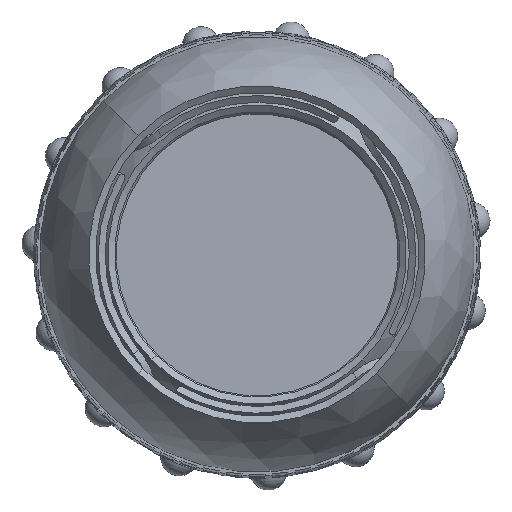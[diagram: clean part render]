
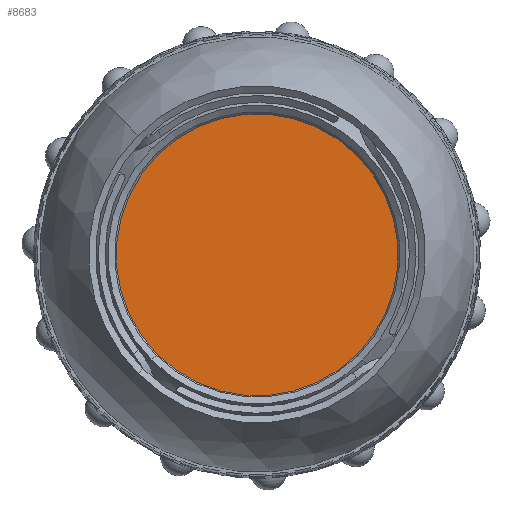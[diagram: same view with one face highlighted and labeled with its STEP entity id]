
A CAD part, top view. The second image highlights one B-rep face of the part: STEP entity #8683.
In plain terms, the highlighted planar face has unit normal (0, 0, 1).
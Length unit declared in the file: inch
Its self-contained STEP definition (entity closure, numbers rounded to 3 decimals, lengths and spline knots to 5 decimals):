
#795 = CIRCLE ( 'NONE', #5091, 0.7572 ) ;
#1948 = PLANE ( 'NONE',  #12317 ) ;
#3307 = DIRECTION ( 'NONE',  ( 0., 0., -1. ) ) ;
#3618 = ORIENTED_EDGE ( 'NONE', *, *, #9756, .F. ) ;
#5091 = AXIS2_PLACEMENT_3D ( 'NONE', #5959, #16489, #7634 ) ;
#5487 = CARTESIAN_POINT ( 'NONE',  ( 0.53542, -0.53542, -0.65318 ) ) ;
#5959 = CARTESIAN_POINT ( 'NONE',  ( 0., 0., -0.65318 ) ) ;
#7634 = DIRECTION ( 'NONE',  ( -0.707, -0.707, 0. ) ) ;
#7817 = VERTEX_POINT ( 'NONE', #5487 ) ;
#8683 = ADVANCED_FACE ( 'NONE', ( #13517 ), #1948, .F. ) ;
#9673 = ORIENTED_EDGE ( 'NONE', *, *, #12932, .F. ) ;
#9756 = EDGE_CURVE ( 'NONE', #7817, #14506, #13383, .T. ) ;
#10963 = EDGE_LOOP ( 'NONE', ( #9673, #3618 ) ) ;
#12317 = AXIS2_PLACEMENT_3D ( 'NONE', #20358, #3307, #17202 ) ;
#12932 = EDGE_CURVE ( 'NONE', #14506, #7817, #795, .T. ) ;
#13383 = CIRCLE ( 'NONE', #21246, 0.7572 ) ;
#13517 = FACE_OUTER_BOUND ( 'NONE', #10963, .T. ) ;
#14506 = VERTEX_POINT ( 'NONE', #16792 ) ;
#15982 = DIRECTION ( 'NONE',  ( 0., 0., -1. ) ) ;
#16489 = DIRECTION ( 'NONE',  ( 0., 0., -1. ) ) ;
#16792 = CARTESIAN_POINT ( 'NONE',  ( -0.53542, 0.53542, -0.65318 ) ) ;
#17202 = DIRECTION ( 'NONE',  ( -0.707, -0.707, 0. ) ) ;
#17875 = CARTESIAN_POINT ( 'NONE',  ( 0., 0., -0.65318 ) ) ;
#19245 = DIRECTION ( 'NONE',  ( -0.707, -0.707, 0. ) ) ;
#20358 = CARTESIAN_POINT ( 'NONE',  ( 0., 0., -0.65318 ) ) ;
#21246 = AXIS2_PLACEMENT_3D ( 'NONE', #17875, #15982, #19245 ) ;
